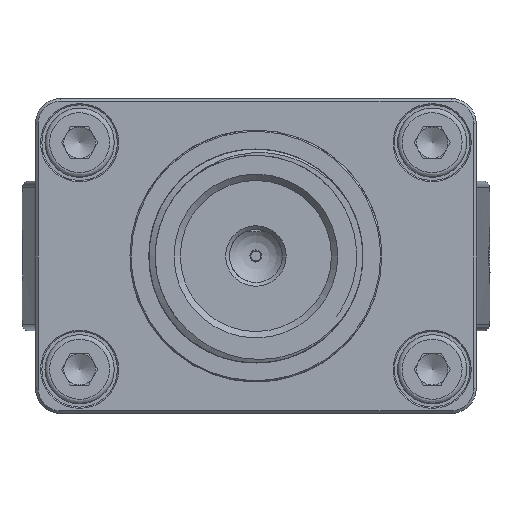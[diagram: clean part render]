
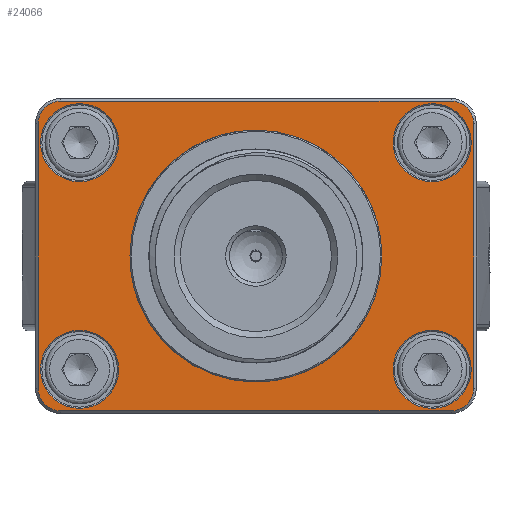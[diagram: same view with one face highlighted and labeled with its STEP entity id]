
A CAD part, front view. The second image highlights one B-rep face of the part: STEP entity #24066.
In plain terms, the highlighted planar face has unit normal (0, -1, 0).
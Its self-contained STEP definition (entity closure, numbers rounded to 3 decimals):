
#18695=LINE('',#79515,#22366);
#18696=LINE('',#79520,#22367);
#18697=LINE('',#79524,#22368);
#18698=LINE('',#79528,#22369);
#22366=VECTOR('',#54938,1.);
#22367=VECTOR('',#54941,1.);
#22368=VECTOR('',#54944,1.);
#22369=VECTOR('',#54947,1.);
#24066=ADVANCED_FACE('',(#26173,#26174,#26175,#26176,#26177,#26178),#25698,
 .T.);
#25698=PLANE('',#47044);
#26173=FACE_BOUND('',#28430,.T.);
#26174=FACE_BOUND('',#28431,.T.);
#26175=FACE_BOUND('',#28432,.T.);
#26176=FACE_BOUND('',#28433,.T.);
#26177=FACE_BOUND('',#28434,.T.);
#26178=FACE_BOUND('',#28435,.T.);
#28430=EDGE_LOOP('',(#36898));
#28431=EDGE_LOOP('',(#36899));
#28432=EDGE_LOOP('',(#36900));
#28433=EDGE_LOOP('',(#36901));
#28434=EDGE_LOOP('',(#36902));
#28435=EDGE_LOOP('',(#36903,#36904,#36905,#36906,#36907,#36908,#36909,#36910));
#36898=ORIENTED_EDGE('',*,*,#44361,.F.);
#36899=ORIENTED_EDGE('',*,*,#44360,.T.);
#36900=ORIENTED_EDGE('',*,*,#44359,.T.);
#36901=ORIENTED_EDGE('',*,*,#44358,.T.);
#36902=ORIENTED_EDGE('',*,*,#44357,.T.);
#36903=ORIENTED_EDGE('',*,*,#44362,.T.);
#36904=ORIENTED_EDGE('',*,*,#44363,.T.);
#36905=ORIENTED_EDGE('',*,*,#44364,.T.);
#36906=ORIENTED_EDGE('',*,*,#44365,.T.);
#36907=ORIENTED_EDGE('',*,*,#44366,.T.);
#36908=ORIENTED_EDGE('',*,*,#44367,.T.);
#36909=ORIENTED_EDGE('',*,*,#44368,.T.);
#36910=ORIENTED_EDGE('',*,*,#44369,.T.);
#40086=VERTEX_POINT('',#79501);
#40087=VERTEX_POINT('',#79504);
#40088=VERTEX_POINT('',#79507);
#40089=VERTEX_POINT('',#79510);
#40090=VERTEX_POINT('',#79513);
#40091=VERTEX_POINT('',#79516);
#40092=VERTEX_POINT('',#79517);
#40093=VERTEX_POINT('',#79519);
#40094=VERTEX_POINT('',#79521);
#40095=VERTEX_POINT('',#79523);
#40096=VERTEX_POINT('',#79525);
#40097=VERTEX_POINT('',#79527);
#40098=VERTEX_POINT('',#79529);
#44357=EDGE_CURVE('',#40086,#40086,#44927,.T.);
#44358=EDGE_CURVE('',#40087,#40087,#44928,.T.);
#44359=EDGE_CURVE('',#40088,#40088,#44929,.T.);
#44360=EDGE_CURVE('',#40089,#40089,#44930,.T.);
#44361=EDGE_CURVE('',#40090,#40090,#44931,.T.);
#44362=EDGE_CURVE('',#40091,#40092,#18695,.T.);
#44363=EDGE_CURVE('',#40092,#40093,#44932,.T.);
#44364=EDGE_CURVE('',#40093,#40094,#18696,.T.);
#44365=EDGE_CURVE('',#40094,#40095,#44933,.T.);
#44366=EDGE_CURVE('',#40095,#40096,#18697,.T.);
#44367=EDGE_CURVE('',#40096,#40097,#44934,.T.);
#44368=EDGE_CURVE('',#40097,#40098,#18698,.T.);
#44369=EDGE_CURVE('',#40098,#40091,#44935,.T.);
#44927=CIRCLE('',#47030,3.1);
#44928=CIRCLE('',#47032,3.1);
#44929=CIRCLE('',#47034,3.1);
#44930=CIRCLE('',#47036,3.1);
#44931=CIRCLE('',#47038,10.);
#44932=CIRCLE('',#47040,1.8);
#44933=CIRCLE('',#47041,1.8);
#44934=CIRCLE('',#47042,1.8);
#44935=CIRCLE('',#47043,1.8);
#47030=AXIS2_PLACEMENT_3D('',#79500,#54918,#54919);
#47032=AXIS2_PLACEMENT_3D('',#79503,#54922,#54923);
#47034=AXIS2_PLACEMENT_3D('',#79506,#54926,#54927);
#47036=AXIS2_PLACEMENT_3D('',#79509,#54930,#54931);
#47038=AXIS2_PLACEMENT_3D('',#79512,#54934,#54935);
#47040=AXIS2_PLACEMENT_3D('',#79518,#54939,#54940);
#47041=AXIS2_PLACEMENT_3D('',#79522,#54942,#54943);
#47042=AXIS2_PLACEMENT_3D('',#79526,#54945,#54946);
#47043=AXIS2_PLACEMENT_3D('',#79530,#54948,#54949);
#47044=AXIS2_PLACEMENT_3D('',#79531,#54950,#54951);
#54918=DIRECTION('',(0.,1.,0.));
#54919=DIRECTION('',(0.,0.,-1.));
#54922=DIRECTION('',(0.,1.,0.));
#54923=DIRECTION('',(0.,0.,-1.));
#54926=DIRECTION('',(0.,1.,0.));
#54927=DIRECTION('',(0.,0.,-1.));
#54930=DIRECTION('',(0.,1.,0.));
#54931=DIRECTION('',(0.,0.,-1.));
#54934=DIRECTION('',(0.,-1.,0.));
#54935=DIRECTION('',(0.,0.,1.));
#54938=DIRECTION('',(0.,0.,1.));
#54939=DIRECTION('',(0.,-1.,0.));
#54940=DIRECTION('',(0.,0.,1.));
#54941=DIRECTION('',(-1.,0.,0.));
#54942=DIRECTION('',(0.,-1.,0.));
#54943=DIRECTION('',(0.,0.,1.));
#54944=DIRECTION('',(0.,0.,-1.));
#54945=DIRECTION('',(0.,-1.,0.));
#54946=DIRECTION('',(0.,0.,1.));
#54947=DIRECTION('',(1.,0.,0.));
#54948=DIRECTION('',(0.,-1.,0.));
#54949=DIRECTION('',(0.,0.,1.));
#54950=DIRECTION('',(0.,-1.,0.));
#54951=DIRECTION('',(0.,0.,-1.));
#79500=CARTESIAN_POINT('',(-14.,-29.5,-21.5));
#79501=CARTESIAN_POINT('',(-14.,-29.5,-24.6));
#79503=CARTESIAN_POINT('',(-14.,-29.5,-3.5));
#79504=CARTESIAN_POINT('',(-14.,-29.5,-6.6));
#79506=CARTESIAN_POINT('',(14.,-29.5,-3.5));
#79507=CARTESIAN_POINT('',(14.,-29.5,-6.6));
#79509=CARTESIAN_POINT('',(14.,-29.5,-21.5));
#79510=CARTESIAN_POINT('',(14.,-29.5,-24.6));
#79512=CARTESIAN_POINT('',(0.,-29.5,-12.5));
#79513=CARTESIAN_POINT('',(0.,-29.5,-2.5));
#79515=CARTESIAN_POINT('',(17.3,-29.5,-21.5));
#79516=CARTESIAN_POINT('',(17.3,-29.5,-23.));
#79517=CARTESIAN_POINT('',(17.3,-29.5,-2.));
#79518=CARTESIAN_POINT('',(15.5,-29.5,-2.));
#79519=CARTESIAN_POINT('',(15.5,-29.5,-0.2));
#79520=CARTESIAN_POINT('',(-14.,-29.5,-0.2));
#79521=CARTESIAN_POINT('',(-15.5,-29.5,-0.2));
#79522=CARTESIAN_POINT('',(-15.5,-29.5,-2.));
#79523=CARTESIAN_POINT('',(-17.3,-29.5,-2.));
#79524=CARTESIAN_POINT('',(-17.3,-29.5,-21.5));
#79525=CARTESIAN_POINT('',(-17.3,-29.5,-23.));
#79526=CARTESIAN_POINT('',(-15.5,-29.5,-23.));
#79527=CARTESIAN_POINT('',(-15.5,-29.5,-24.8));
#79528=CARTESIAN_POINT('',(-14.,-29.5,-24.8));
#79529=CARTESIAN_POINT('',(15.5,-29.5,-24.8));
#79530=CARTESIAN_POINT('',(15.5,-29.5,-23.));
#79531=CARTESIAN_POINT('',(-14.,-29.5,-21.5));
